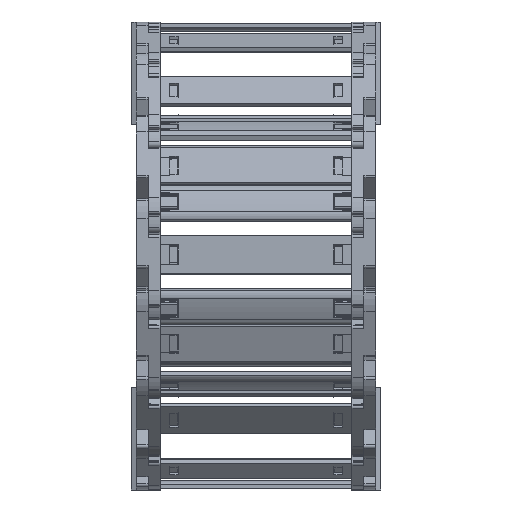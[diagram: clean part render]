
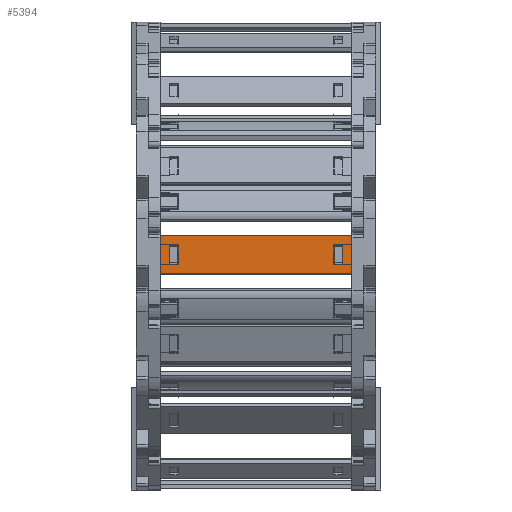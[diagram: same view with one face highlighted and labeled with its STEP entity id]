
A CAD part, left-side view. The second image highlights one B-rep face of the part: STEP entity #5394.
In plain terms, the highlighted planar face has unit normal (-1, 0, 0.007) as drawn and (0, 1, 0) by its records, which use the part's own axes.
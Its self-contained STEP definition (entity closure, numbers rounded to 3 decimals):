
#4814=DIRECTION('',(0.,0.,1.));
#4815=VECTOR('',#4814,15.8);
#4816=CARTESIAN_POINT('',(65.74,1.5,-7.9));
#4817=LINE('',#4816,#4815);
#4818=DIRECTION('',(-1.,0.,0.));
#4819=VECTOR('',#4818,80.5);
#4820=CARTESIAN_POINT('',(65.74,1.5,7.9));
#4821=LINE('',#4820,#4819);
#4822=DIRECTION('',(0.,0.,-1.));
#4823=VECTOR('',#4822,15.8);
#4824=CARTESIAN_POINT('',(-14.76,1.5,7.9));
#4825=LINE('',#4824,#4823);
#4826=DIRECTION('',(1.,0.,0.));
#4827=VECTOR('',#4826,3.648);
#4828=CARTESIAN_POINT('',(58.122,1.5,4.075));
#4829=LINE('',#4828,#4827);
#4830=DIRECTION('',(0.,0.,-1.));
#4831=VECTOR('',#4830,8.15);
#4832=CARTESIAN_POINT('',(61.77,1.5,4.075));
#4833=LINE('',#4832,#4831);
#4834=DIRECTION('',(-1.,0.,0.));
#4835=VECTOR('',#4834,3.648);
#4836=CARTESIAN_POINT('',(61.77,1.5,-4.075));
#4837=LINE('',#4836,#4835);
#4838=DIRECTION('',(0.,0.,-1.));
#4839=VECTOR('',#4838,8.15);
#4840=CARTESIAN_POINT('',(-7.142,1.5,4.075));
#4841=LINE('',#4840,#4839);
#4842=DIRECTION('',(-1.,0.,0.));
#4843=VECTOR('',#4842,3.648);
#4844=CARTESIAN_POINT('',(-7.142,1.5,-4.075));
#4845=LINE('',#4844,#4843);
#4846=DIRECTION('',(0.,0.,1.));
#4847=VECTOR('',#4846,8.15);
#4848=CARTESIAN_POINT('',(-10.79,1.5,-4.075));
#4849=LINE('',#4848,#4847);
#4850=DIRECTION('',(1.,0.,0.));
#4851=VECTOR('',#4850,3.648);
#4852=CARTESIAN_POINT('',(-10.79,1.5,4.075));
#4853=LINE('',#4852,#4851);
#4858=DIRECTION('',(-1.,0.,0.));
#4859=VECTOR('',#4858,80.5);
#4860=CARTESIAN_POINT('',(65.74,1.5,-7.9));
#4861=LINE('',#4860,#4859);
#4979=DIRECTION('',(0.,0.,-1.));
#4980=VECTOR('',#4979,8.15);
#4981=CARTESIAN_POINT('',(58.122,1.5,4.075));
#4982=LINE('',#4981,#4980);
#5164=CARTESIAN_POINT('',(61.77,1.5,4.075));
#5165=VERTEX_POINT('',#5164);
#5166=CARTESIAN_POINT('',(58.122,1.5,4.075));
#5167=VERTEX_POINT('',#5166);
#5208=CARTESIAN_POINT('',(58.122,1.5,-4.075));
#5209=VERTEX_POINT('',#5208);
#5210=CARTESIAN_POINT('',(61.77,1.5,-4.075));
#5211=VERTEX_POINT('',#5210);
#5212=CARTESIAN_POINT('',(65.74,1.5,7.9));
#5214=VERTEX_POINT('',#5212);
#5216=CARTESIAN_POINT('',(65.74,1.5,-7.9));
#5217=VERTEX_POINT('',#5216);
#5240=CARTESIAN_POINT('',(-7.142,1.5,4.075));
#5241=CARTESIAN_POINT('',(-7.142,1.5,-4.075));
#5242=VERTEX_POINT('',#5240);
#5243=VERTEX_POINT('',#5241);
#5244=CARTESIAN_POINT('',(-10.79,1.5,-4.075));
#5245=VERTEX_POINT('',#5244);
#5246=CARTESIAN_POINT('',(-10.79,1.5,4.075));
#5247=VERTEX_POINT('',#5246);
#5248=CARTESIAN_POINT('',(-14.76,1.5,7.9));
#5249=VERTEX_POINT('',#5248);
#5252=CARTESIAN_POINT('',(-14.76,1.5,-7.9));
#5253=VERTEX_POINT('',#5252);
#5363=CARTESIAN_POINT('',(97.48,1.5,10.061));
#5364=DIRECTION('',(0.,-1.,0.));
#5365=DIRECTION('',(0.,0.,-1.));
#5366=AXIS2_PLACEMENT_3D('',#5363,#5364,#5365);
#5367=PLANE('',#5366);
#5368=ORIENTED_EDGE('',*,*,#5302,.T.);
#5369=ORIENTED_EDGE('',*,*,#5328,.T.);
#5370=ORIENTED_EDGE('',*,*,#5341,.T.);
#5372=ORIENTED_EDGE('',*,*,#5371,.F.);
#5373=EDGE_LOOP('',(#5368,#5369,#5370,#5372));
#5374=FACE_OUTER_BOUND('',#5373,.F.);
#5376=ORIENTED_EDGE('',*,*,#5375,.F.);
#5377=ORIENTED_EDGE('',*,*,#5265,.T.);
#5379=ORIENTED_EDGE('',*,*,#5378,.T.);
#5381=ORIENTED_EDGE('',*,*,#5380,.T.);
#5382=EDGE_LOOP('',(#5376,#5377,#5379,#5381));
#5383=FACE_BOUND('',#5382,.F.);
#5385=ORIENTED_EDGE('',*,*,#5384,.T.);
#5387=ORIENTED_EDGE('',*,*,#5386,.T.);
#5389=ORIENTED_EDGE('',*,*,#5388,.T.);
#5391=ORIENTED_EDGE('',*,*,#5390,.T.);
#5392=EDGE_LOOP('',(#5385,#5387,#5389,#5391));
#5393=FACE_BOUND('',#5392,.F.);
#5394=ADVANCED_FACE('',(#5374,#5383,#5393),#5367,.F.);
#5265=EDGE_CURVE('',#5167,#5165,#4829,.T.);
#5302=EDGE_CURVE('',#5217,#5214,#4817,.T.);
#5328=EDGE_CURVE('',#5214,#5249,#4821,.T.);
#5341=EDGE_CURVE('',#5249,#5253,#4825,.T.);
#5371=EDGE_CURVE('',#5217,#5253,#4861,.T.);
#5375=EDGE_CURVE('',#5167,#5209,#4982,.T.);
#5378=EDGE_CURVE('',#5165,#5211,#4833,.T.);
#5380=EDGE_CURVE('',#5211,#5209,#4837,.T.);
#5384=EDGE_CURVE('',#5242,#5243,#4841,.T.);
#5386=EDGE_CURVE('',#5243,#5245,#4845,.T.);
#5388=EDGE_CURVE('',#5245,#5247,#4849,.T.);
#5390=EDGE_CURVE('',#5247,#5242,#4853,.T.);
